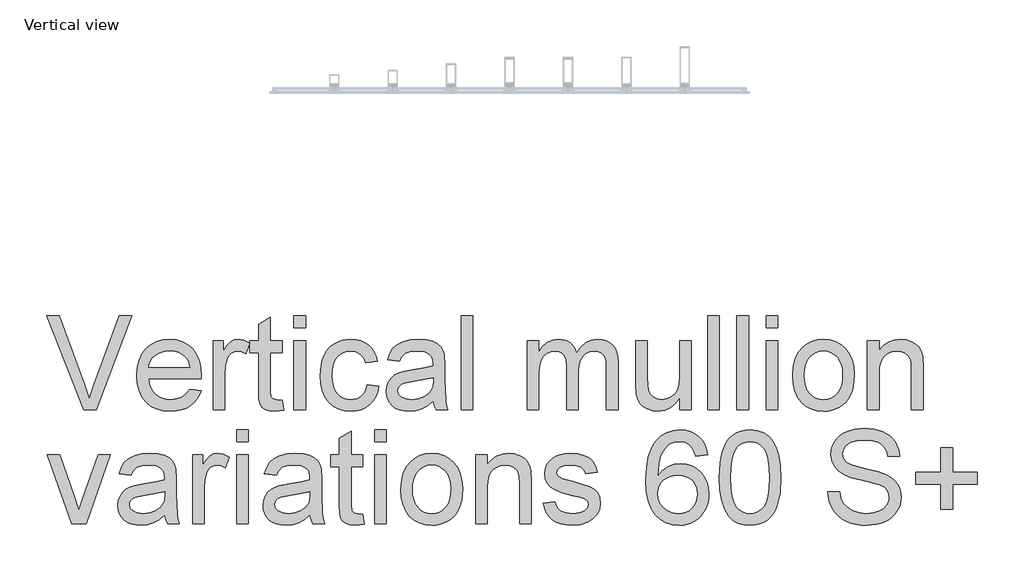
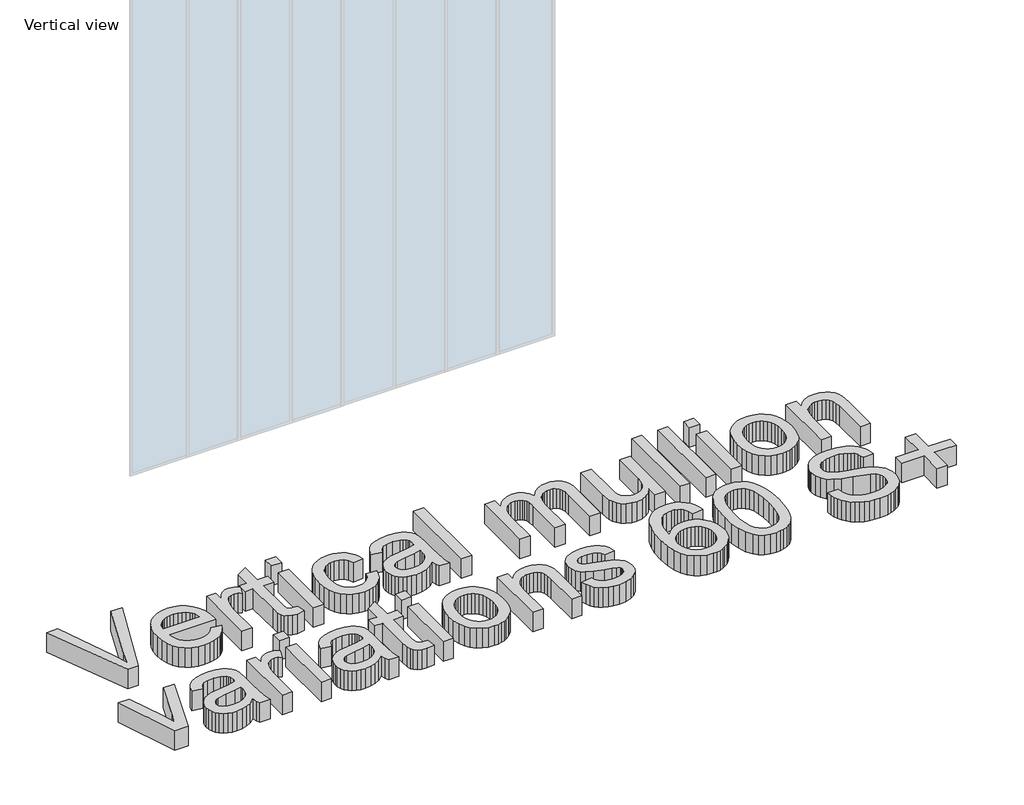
# One storey, part 7 of 8: 1 proxy.
"""IFC4 building model written with IfcOpenShell, lengths in millimetres."""

from ifc_helpers import new_model, si_unit, origin, origin_with_axes, place, context, project, spatial, polyline, outline, extrude, element, save

model = new_model("IFC4")

# Units and contexts
model_context = context("Model", 3, world=origin())
ifc_project = project(units=[si_unit("LENGTHUNIT", "METRE", prefix="MILLI")], contexts=[model_context])

# Site, building, storey
site = spatial("IfcSite", under=ifc_project)
building = spatial("IfcBuilding", under=site)
storey = spatial("IfcBuildingStorey", under=building, Name="Vertical view", Elevation=0.0)

# Proxy
placement = place(None, origin())
element("IfcBuildingElementProxy", 1, Name="600mm Arial", ObjectType="600mm Arial", at=placement, inside=storey, context=model_context, shape_type="SweptSolid", body=[
    extrude(outline(polyline([(25771.5572024, -6028.2897002), (25531.6981415, -5425.5518393), (25612.3378749, -5425.5518393), (25772.8815776, -5859.7997465), (25805.402346, -5957.6563572), (25837.4816559, -5859.7997465), (25998.466817, -5425.5518393), (26079.1065504, -5425.5518393), (25849.4010326, -6028.2897002), (25771.5572024, -6028.2897002)])), origin_with_axes(), (0.0, 0.0, 1.0), 150.0),
    extrude(outline(polyline([(26449.6372959, -5896.4407932), (26523.5080005, -5905.8585722), (26512.1818336, -5935.4454817), (26496.8917382, -5961.5191181), (26477.6377143, -5984.0794815), (26454.4197618, -6003.1265718), (26427.4770042, -6018.2557188), (26397.0485647, -6029.0622524), (26363.1344433, -6035.5461726), (26325.7346399, -6037.7074793), (26278.9860354, -6033.9780756), (26237.3325965, -6022.7898644), (26200.7743232, -6004.1428458), (26169.3112156, -5978.0370197), (26144.0101314, -5945.1989531), (26125.9379284, -5906.3552129), (26115.0946065, -5861.5057992), (26111.4801659, -5810.6507119), (26115.1313947, -5758.0711777), (26126.0850812, -5711.7272434), (26144.3412252, -5671.6189089), (26169.8998268, -5637.7461742), (26201.280161, -5610.8356062), (26237.0015027, -5591.613772), (26277.063852, -5580.0806714), (26321.4672088, -5576.2363046), (26364.4404244, -5580.0714744), (26403.3025586, -5591.5769838), (26438.0536116, -5610.7528328), (26468.6935833, -5637.5990214), (26493.7049604, -5671.3981797), (26511.5702298, -5711.4329378), (26522.2893914, -5757.7032957), (26525.8624453, -5810.2092535), (26525.4209869, -5830.5163396), (26186.8223986, -5830.5163396), (26191.1863987, -5860.5814957), (26199.8638153, -5886.9126495), (26212.8546482, -5909.509801), (26230.1588976, -5928.3729504), (26250.8200701, -5943.24458), (26273.8816727, -5953.8671726), (26299.3437053, -5960.2407282), (26327.2061679, -5962.3652467), (26367.3053054, -5958.4289094), (26401.0768725, -5946.6198973), (26428.5208694, -5926.2024466), (26449.6372959, -5896.4407932)]), holes=[polyline([(26186.8223986, -5755.174107), (26450.5202127, -5755.174107), (26440.3298814, -5715.3692751), (26431.5650929, -5699.7158963), (26420.3538891, -5686.8952087), (26399.8076797, -5671.4441649), (26376.4287789, -5660.4077051), (26350.2171867, -5653.7858292), (26321.1729032, -5651.5785372), (26294.680801, -5653.3397722), (26270.3867938, -5658.6234774), (26248.2908814, -5667.4296526), (26228.393064, -5679.758298), (26211.69582, -5695.0391964), (26199.2016277, -5712.7021307), (26190.9104872, -5732.7471009), (26186.8223986, -5755.174107)])]), origin_with_axes(), (0.0, 0.0, 1.0), 150.0),
    extrude(outline(polyline([(26601.2046779, -6028.2897002), (26601.2046779, -5585.6540836), (26667.1291315, -5585.6540836), (26667.1291315, -5651.1370788), (26691.4829195, -5613.1716569), (26713.9237212, -5590.8044316), (26736.4380994, -5579.8783363), (26761.0126166, -5576.2363046), (26798.5365801, -5582.0488401), (26836.6491548, -5599.4864467), (26811.4860264, -5667.029581), (26784.9985227, -5655.4412981), (26758.5110191, -5651.5785372), (26736.0150351, -5655.2941453), (26715.910284, -5666.4409698), (26699.6682939, -5684.172882), (26688.7605928, -5707.6437532), (26679.6003311, -5749.7294535), (26676.5469105, -5795.6411265), (26676.5469105, -6028.2897002), (26601.2046779, -6028.2897002)])), origin_with_axes(), (0.0, 0.0, 1.0), 150.0),
    extrude(outline(polyline([(27043.8402945, -5965.4554555), (27053.2580736, -6030.4969922), (26996.8985519, -6037.7074793), (26960.7357518, -6034.5804824), (26933.7700016, -6025.1994915), (26914.7137142, -6010.7417291), (26902.2793028, -5992.3844175), (26895.4366977, -5960.8569305), (26893.1558293, -5906.8886418), (26893.1558293, -5660.9963163), (26836.6491548, -5660.9963163), (26836.6491548, -5585.6540836), (26893.1558293, -5585.6540836), (26893.1558293, -5478.0853883), (26968.4980619, -5433.792396), (26968.4980619, -5585.6540836), (27043.8402945, -5585.6540836), (27043.8402945, -5660.9963163), (26968.4980619, -5660.9963163), (26968.4980619, -5904.6813499), (26972.4711875, -5943.5296886), (26985.3470573, -5957.2884752), (26996.2179702, -5961.0960538), (27011.0252206, -5962.3652467), (27043.8402945, -5965.4554555)])), origin_with_axes(), (0.0, 0.0, 1.0), 150.0),
    extrude(outline(polyline([(27119.1825271, -6028.2897002), (27119.1825271, -5585.6540836), (27194.5247597, -5585.6540836), (27194.5247597, -6028.2897002), (27119.1825271, -6028.2897002)])), origin_with_axes(), (0.0, 0.0, 1.0), 150.0),
    extrude(outline(polyline([(27119.1825271, -5500.894072), (27119.1825271, -5425.5518393), (27194.5247597, -5425.5518393), (27194.5247597, -5500.894072), (27119.1825271, -5500.894072)])), origin_with_axes(), (0.0, 0.0, 1.0), 150.0),
    extrude(outline(polyline([(27590.071481, -5868.1874559), (27665.4137136, -5877.605235), (27657.2191421, -5913.1564313), (27644.4076516, -5944.6149404), (27626.9792421, -5971.9807624), (27604.9339136, -5995.2538971), (27579.200568, -6013.8273393), (27550.7081075, -6027.0940838), (27519.456532, -6035.0541304), (27485.4458415, -6037.7074793), (27443.1899959, -6034.0056667), (27405.3027489, -6022.900229), (27371.7841006, -6004.3911661), (27342.634051, -5978.4784781), (27319.0390195, -5945.6496086), (27302.1854256, -5906.3920011), (27292.0732693, -5860.7056559), (27288.7025505, -5808.5905727), (27294.4599037, -5741.5440791), (27301.6565953, -5711.373157), (27311.7319634, -5683.437118), (27324.754986, -5658.2969821), (27340.794641, -5636.5137695), (27359.8509284, -5618.08748), (27381.9238481, -5603.0181138), (27406.0155202, -5591.3010723), (27431.1280649, -5582.9317569), (27457.2614822, -5577.9101676), (27484.4157719, -5576.2363046), (27517.8424497, -5578.535567), (27548.0777512, -5585.4333544), (27575.1216764, -5596.9296668), (27598.9742252, -5613.0245041), (27619.2307276, -5633.3499843), (27635.4865133, -5657.5382255), (27647.7415822, -5685.5892276), (27655.9959345, -5717.5029907), (27580.6537019, -5726.9207698), (27566.9868858, -5694.0505135), (27545.7049123, -5670.4876717), (27517.985004, -5656.3058208), (27485.0043831, -5651.5785372), (27459.4043948, -5653.9053908), (27436.3152011, -5660.8859517), (27415.736802, -5672.5202198), (27397.6691975, -5688.8081951), (27382.9585162, -5710.1269567), (27372.4508867, -5736.8535837), (27366.146309, -5768.9880759), (27364.0447831, -5806.5304335), (27366.1003238, -5844.6384097), (27372.2669457, -5877.1453825), (27382.544649, -5904.0513519), (27396.9334335, -5925.356318), (27414.642353, -5941.5477243), (27434.8804613, -5953.1130145), (27457.6477583, -5960.0521887), (27482.944244, -5962.3652467), (27521.9581296, -5956.5894994), (27538.8301176, -5949.3698152), (27553.945469, -5939.2622574), (27566.8811197, -5926.1564613), (27577.2140052, -5909.9420624), (27584.9441257, -5890.6190606), (27590.071481, -5868.1874559)])), origin_with_axes(), (0.0, 0.0, 1.0), 150.0),
    extrude(outline(polyline([(28013.8715394, -5971.7830258), (27977.8742862, -6002.6483252), (27940.8101752, -6022.8450467), (27901.8330778, -6033.9918712), (27860.0968654, -6037.7074793), (27826.550626, -6035.4725962), (27797.1338619, -6028.7679468), (27771.8465733, -6017.5935312), (27750.6887601, -6001.9493494), (27733.9823189, -5982.8286827), (27722.0491467, -5961.2248125), (27714.8892434, -5937.1377389), (27712.502609, -5910.5674618), (27716.1078525, -5879.3342804), (27726.9235832, -5850.9705786), (27743.6070316, -5826.6903669), (27764.8154287, -5807.7076559), (27789.7394338, -5793.3602581), (27817.5697068, -5782.9859859), (27882.7583963, -5771.6552204), (27959.7928861, -5759.7358438), (28013.430081, -5745.7563279), (28013.8715394, -5728.980909), (28008.6844033, -5695.3564946), (28002.2004831, -5682.9036891), (27993.1229949, -5673.3571513), (27977.4328278, -5663.8290076), (27958.3213581, -5657.0231907), (27909.8345112, -5651.5785372), (27864.9529078, -5655.2021748), (27833.6093618, -5666.0730878), (27812.2354178, -5686.1778388), (27797.2626206, -5717.5029907), (27721.920388, -5708.0852116), (27734.998593, -5666.8824282), (27754.5147328, -5634.5088126), (27782.2898234, -5609.7503543), (27820.1448807, -5591.3930428), (27866.4428298, -5580.0254891), (27919.5465958, -5576.2363046), (27970.4798581, -5579.5840307), (28010.854907, -5589.6272092), (28041.2971421, -5604.7287651), (28062.4319628, -5623.2516236), (28076.4482668, -5646.1522778), (28085.5349521, -5674.3872209), (28089.213772, -5740.3116744), (28089.213772, -5834.0480068), (28093.0397448, -5964.9404207), (28098.7051275, -5997.2956421), (28108.0493302, -6028.2897002), (28032.7070976, -6028.2897002), (28020.6405681, -6002.0965022), (28013.8715394, -5971.7830258)]), holes=[polyline([(28013.8715394, -5821.0985606), (27963.2509769, -5833.6433366), (27892.3233282, -5844.2015499), (27827.5025206, -5856.4152321), (27810.6351312, -5864.7661534), (27798.1455374, -5876.2808598), (27790.4200155, -5890.0764347), (27787.8448416, -5905.2699611), (27793.455042, -5927.6739746), (27810.2856433, -5946.0312861), (27837.9687634, -5958.2817566), (27876.1365204, -5962.3652467), (27916.6035399, -5957.8586923), (27952.3616698, -5944.3390289), (27981.350771, -5924.4182189), (28001.5107044, -5900.7082243), (28010.4502368, -5876.2808598), (28013.430081, -5842.4357163), (28013.8715394, -5821.0985606)])]), origin_with_axes(), (0.0, 0.0, 1.0), 150.0),
    extrude(outline(polyline([(28192.8093419, -6028.2897002), (28192.8093419, -5425.5518393), (28268.1515745, -5425.5518393), (28268.1515745, -6028.2897002), (28192.8093419, -6028.2897002)])), origin_with_axes(), (0.0, 0.0, 1.0), 150.0),
    extrude(outline(polyline([(28616.6094003, -6028.2897002), (28616.6094003, -5585.6540836), (28691.9516329, -5585.6540836), (28691.9516329, -5658.4947187), (28714.6131638, -5625.0358512), (28743.7494178, -5598.8242591), (28778.3671136, -5581.8832932), (28817.4729697, -5576.2363046), (28859.3747289, -5581.9936578), (28877.2078086, -5589.1903493), (28892.9623551, -5599.2657175), (28918.0519071, -5626.9120494), (28934.4594441, -5663.7922194), (28961.9218351, -5625.4865067), (28993.246987, -5598.1252833), (29028.4348998, -5581.7085492), (29067.4855736, -5576.2363046), (29097.6472987, -5578.5125744), (29124.1210067, -5585.3413839), (29146.9066978, -5596.7227332), (29166.0043719, -5612.6566221), (29181.1013293, -5633.3269917), (29191.8848703, -5658.917783), (29198.3549948, -5689.428996), (29200.511703, -5724.8606306), (29200.511703, -6028.2897002), (29125.1694704, -6028.2897002), (29125.1694704, -5757.2342462), (29123.422031, -5719.6551004), (29118.1797125, -5694.326425), (29108.3572633, -5676.9807889), (29092.8694313, -5663.350761), (29072.9486212, -5654.5215931), (29049.8272378, -5651.5785372), (29028.4762865, -5653.4639324), (29009.0107305, -5659.1201181), (28991.4305696, -5668.5470942), (28975.735804, -5681.7448608), (28962.8277445, -5699.0996939), (28953.607702, -5720.9978697), (28948.0756765, -5747.4393881), (28946.231668, -5778.4242491), (28946.231668, -6028.2897002), (28870.8894354, -6028.2897002), (28870.8894354, -5748.8465367), (28866.5300337, -5706.2458017), (28861.0807817, -5689.525565), (28853.4518288, -5675.8587489), (28843.3396725, -5665.2361563), (28830.44081, -5657.6485901), (28814.7552414, -5653.0960504), (28796.2829667, -5651.5785372), (28767.2570773, -5655.6252391), (28740.5120563, -5667.765345), (28718.4391366, -5687.7045491), (28703.4295512, -5715.1485459), (28694.8211125, -5753.2243324), (28691.9516329, -5805.0589056), (28691.9516329, -6028.2897002), (28616.6094003, -6028.2897002)])), origin_with_axes(), (0.0, 0.0, 1.0), 150.0),
    extrude(outline(polyline([(29596.0584243, -6028.2897002), (29596.0584243, -5952.2117036), (29568.7983684, -5989.6161055), (29537.0501522, -6016.3335354), (29500.8137757, -6032.3639933), (29460.0892388, -6037.7074793), (29423.3930098, -6033.955083), (29389.2351666, -6022.6978939), (29360.5771591, -6005.7753221), (29340.3804376, -5985.0267776), (29326.7871979, -5959.8268609), (29317.9396359, -5929.5501727), (29313.525052, -5859.5054409), (29313.525052, -5585.6540836), (29388.8672846, -5585.6540836), (29388.8672846, -5824.0416165), (29390.0077188, -5871.7191231), (29393.4290213, -5900.8553771), (29404.4102989, -5926.4783581), (29423.2274629, -5945.9577097), (29448.6297147, -5958.2633625), (29479.3662554, -5962.3652467), (29511.8686297, -5958.171392), (29542.2740766, -5945.5898277), (29567.3452345, -5925.7793823), (29583.844742, -5899.8988839), (29593.0050037, -5864.4534537), (29596.0584243, -5815.9482126), (29596.0584243, -5585.6540836), (29671.4006569, -5585.6540836), (29671.4006569, -6028.2897002), (29596.0584243, -6028.2897002)])), origin_with_axes(), (0.0, 0.0, 1.0), 150.0),
    extrude(outline(polyline([(29774.9962267, -6028.2897002), (29774.9962267, -5425.5518393), (29850.3384593, -5425.5518393), (29850.3384593, -6028.2897002), (29774.9962267, -6028.2897002)])), origin_with_axes(), (0.0, 0.0, 1.0), 150.0),
    extrude(outline(polyline([(29963.3518082, -6028.2897002), (29963.3518082, -5425.5518393), (30038.6940409, -5425.5518393), (30038.6940409, -6028.2897002), (29963.3518082, -6028.2897002)])), origin_with_axes(), (0.0, 0.0, 1.0), 150.0),
    extrude(outline(polyline([(30151.7073898, -6028.2897002), (30151.7073898, -5585.6540836), (30227.0496224, -5585.6540836), (30227.0496224, -6028.2897002), (30151.7073898, -6028.2897002)])), origin_with_axes(), (0.0, 0.0, 1.0), 150.0),
    extrude(outline(polyline([(30151.7073898, -5500.894072), (30151.7073898, -5425.5518393), (30227.0496224, -5425.5518393), (30227.0496224, -5500.894072), (30151.7073898, -5500.894072)])), origin_with_axes(), (0.0, 0.0, 1.0), 150.0),
    extrude(outline(polyline([(30321.2274132, -5806.9718919), (30325.3017062, -5749.64668), (30337.5245855, -5700.2493251), (30357.896051, -5658.7798272), (30386.4161027, -5625.2381863), (30415.1292924, -5603.7998631), (30446.8223263, -5588.486775), (30481.4952044, -5579.2989222), (30519.1479266, -5576.2363046), (30560.7139935, -5579.9657083), (30598.2977378, -5591.1539195), (30631.8991596, -5609.8009381), (30661.5182587, -5635.9067642), (30685.6927043, -5668.5884809), (30702.9601654, -5706.9631716), (30713.3206421, -5751.0308361), (30716.7741344, -5800.7914744), (30715.2474241, -5841.1205381), (30710.6672932, -5876.9062592), (30703.0337418, -5908.1486377), (30692.3467699, -5934.8476735), (30678.7397346, -5957.909276), (30662.3459932, -5978.2393548), (30643.1655457, -5995.8379097), (30621.198392, -6010.7049409), (30597.2998579, -6022.5185514), (30572.325269, -6030.9568447), (30546.2746252, -6036.0198207), (30519.1479266, -6037.7074793), (30476.9748543, -6033.9918712), (30439.0416221, -6022.8450467), (30405.3482299, -6004.267006), (30375.8946776, -5978.2577489), (30351.9777494, -5945.2587339), (30334.8942293, -5905.7114194), (30324.6441172, -5859.6158055), (30321.2274132, -5806.9718919)]), holes=[polyline([(30396.5696458, -5806.8247391), (30398.7493466, -5843.3692168), (30405.2884491, -5875.011667), (30416.1869532, -5901.7520895), (30431.4448589, -5923.5904844), (30450.0045056, -5940.5544429), (30470.8082324, -5952.6715561), (30493.8560394, -5959.9418241), (30519.1479266, -5962.3652467), (30544.311055, -5959.9280285), (30567.2668915, -5952.6163738), (30588.0154361, -5940.4302827), (30606.5566886, -5923.3697552), (30621.8145944, -5901.3152296), (30632.7130985, -5874.1471443), (30639.2522009, -5841.8654992), (30641.4319018, -5804.4702944), (30639.2384054, -5769.084645), (30632.6579162, -5738.2699293), (30621.6904342, -5712.0261475), (30606.3359594, -5690.3532995), (30587.725729, -5673.389341), (30566.99098, -5661.2722278), (30544.1317126, -5654.0019598), (30519.1479266, -5651.5785372), (30493.8560394, -5653.9927628), (30470.8082324, -5661.2354396), (30450.0045056, -5673.3065675), (30431.4448589, -5690.2061467), (30416.1869532, -5711.9801623), (30405.2884491, -5738.6745995), (30398.7493466, -5770.2894585), (30396.5696458, -5806.8247391)])]), origin_with_axes(), (0.0, 0.0, 1.0), 150.0),
    extrude(outline(polyline([(30801.5341461, -6028.2897002), (30801.5341461, -5585.6540836), (30876.8763787, -5585.6540836), (30876.8763787, -5647.4582588), (30903.0511826, -5616.2986538), (30934.4866991, -5594.0417931), (30971.1829281, -5580.6876767), (31013.1398697, -5576.2363046), (31050.2775571, -5579.823154), (31084.2882475, -5590.5837024), (31112.6519494, -5607.1751804), (31132.8486709, -5628.2548187), (31146.5522752, -5653.7674351), (31155.4366254, -5683.6578472), (31159.409751, -5756.4984822), (31159.409751, -6028.2897002), (31084.0675184, -6028.2897002), (31084.0675184, -5766.6520253), (31081.8970146, -5727.693322), (31075.3855033, -5699.9918077), (31063.3741561, -5680.1445741), (31044.7041449, -5664.7487126), (31020.7734211, -5654.871081), (30992.9799363, -5651.5785372), (30970.1022748, -5653.4271442), (30948.852491, -5658.9729653), (30929.2305851, -5668.2160004), (30911.236557, -5681.1562496), (30896.203979, -5699.2652408), (30885.4664233, -5724.014502), (30879.0238898, -5755.4040333), (30876.8763787, -5793.4338345), (30876.8763787, -6028.2897002), (30801.5341461, -6028.2897002)])), origin_with_axes(), (0.0, 0.0, 1.0), 150.0),
    extrude(outline(polyline([(25692.6833026, -6760.1386073), (25536.9956423, -6317.5029907), (25616.7524588, -6317.5029907), (25711.0774024, -6582.6723328), (25739.4778924, -6671.8469285), (25767.2897713, -6587.675528), (25862.203326, -6317.5029907), (25941.9601426, -6317.5029907), (25788.1854686, -6760.1386073), (25692.6833026, -6760.1386073)])), origin_with_axes(), (0.0, 0.0, 1.0), 150.0),
    extrude(outline(polyline([(26290.4179684, -6703.6319329), (26254.4207152, -6734.4972322), (26217.3566042, -6754.6939538), (26178.3795068, -6765.8407782), (26136.6432944, -6769.5563864), (26103.097055, -6767.3215033), (26073.6802909, -6760.6168539), (26048.3930023, -6749.4424383), (26027.235189, -6733.7982565), (26010.5287479, -6714.6775898), (25998.5955757, -6693.0737196), (25991.4356724, -6668.986646), (25989.049038, -6642.4163689), (25992.6542815, -6611.1831875), (26003.4700122, -6582.8194856), (26020.1534606, -6558.539274), (26041.3618577, -6539.556563), (26066.2858628, -6525.2091652), (26094.1161358, -6514.8348929), (26159.3048253, -6503.5041275), (26236.3393151, -6491.5847508), (26289.97651, -6477.605235), (26290.4179684, -6460.829816), (26285.2308323, -6427.2054017), (26278.7469121, -6414.7525961), (26269.6694239, -6405.2060584), (26253.9792568, -6395.6779147), (26234.8677871, -6388.8720978), (26186.3809402, -6383.4274443), (26141.4993368, -6387.0510819), (26110.1557908, -6397.9219949), (26088.7818468, -6418.0267459), (26073.8090496, -6449.3518978), (25998.466817, -6439.9341187), (26011.545022, -6398.7313353), (26031.0611618, -6366.3577197), (26058.8362524, -6341.5992614), (26096.6913097, -6323.2419498), (26142.9892588, -6311.8743962), (26196.0930248, -6308.0852116), (26247.0262871, -6311.4329378), (26287.401336, -6321.4761163), (26317.8435711, -6336.5776722), (26338.9783918, -6355.1005306), (26352.9946958, -6378.0011848), (26362.0813811, -6406.236128), (26365.760201, -6472.1605815), (26365.760201, -6565.8969139), (26369.5861738, -6696.7893277), (26375.2515565, -6729.1445492), (26384.5957592, -6760.1386073), (26309.2535266, -6760.1386073), (26297.1869971, -6733.9454093), (26290.4179684, -6703.6319329)]), holes=[polyline([(26290.4179684, -6552.9474676), (26239.7974059, -6565.4922437), (26168.8697572, -6576.0504569), (26104.0489496, -6588.2641392), (26087.1815602, -6596.6150605), (26074.6919664, -6608.1297669), (26066.9664445, -6621.9253417), (26064.3912706, -6637.1188681), (26070.001471, -6659.5228816), (26086.8320723, -6677.8801932), (26114.5151924, -6690.1306636), (26152.6829494, -6694.2141538), (26193.1499689, -6689.7075993), (26228.9080988, -6676.187936), (26257.8972, -6656.267126), (26278.0571334, -6632.5571314), (26286.9966658, -6608.1297669), (26289.97651, -6574.2846234), (26290.4179684, -6552.9474676)])]), origin_with_axes(), (0.0, 0.0, 1.0), 150.0),
    extrude(outline(polyline([(26469.3557709, -6760.1386073), (26469.3557709, -6317.5029907), (26535.2802244, -6317.5029907), (26535.2802244, -6382.9859859), (26559.6340125, -6345.020564), (26582.0748142, -6322.6533386), (26604.5891923, -6311.7272434), (26629.1637096, -6308.0852116), (26666.6876731, -6313.8977472), (26704.8002478, -6331.3353537), (26679.6371193, -6398.8784881), (26653.1496156, -6387.2902052), (26626.662112, -6383.4274443), (26604.166128, -6387.1430524), (26584.0613769, -6398.2898769), (26567.8193869, -6416.021789), (26556.9116857, -6439.4926603), (26547.751424, -6481.5783606), (26544.6980035, -6527.4900336), (26544.6980035, -6760.1386073), (26469.3557709, -6760.1386073)])), origin_with_axes(), (0.0, 0.0, 1.0), 150.0),
    extrude(outline(polyline([(26751.8891431, -6760.1386073), (26751.8891431, -6317.5029907), (26827.2313758, -6317.5029907), (26827.2313758, -6760.1386073), (26751.8891431, -6760.1386073)])), origin_with_axes(), (0.0, 0.0, 1.0), 150.0),
    extrude(outline(polyline([(26751.8891431, -6232.742979), (26751.8891431, -6157.4007464), (26827.2313758, -6157.4007464), (26827.2313758, -6232.742979), (26751.8891431, -6232.742979)])), origin_with_axes(), (0.0, 0.0, 1.0), 150.0),
    extrude(outline(polyline([(27222.778097, -6703.6319329), (27186.7808437, -6734.4972322), (27149.7167327, -6754.6939538), (27110.7396353, -6765.8407782), (27069.003423, -6769.5563864), (27035.4571836, -6767.3215033), (27006.0404195, -6760.6168539), (26980.7531309, -6749.4424383), (26959.5953176, -6733.7982565), (26942.8888765, -6714.6775898), (26930.9557043, -6693.0737196), (26923.795801, -6668.986646), (26921.4091665, -6642.4163689), (26925.0144101, -6611.1831875), (26935.8301407, -6582.8194856), (26952.5135892, -6558.539274), (26973.7219862, -6539.556563), (26998.6459914, -6525.2091652), (27026.4762643, -6514.8348929), (27091.6649539, -6503.5041275), (27168.6994437, -6491.5847508), (27222.3366386, -6477.605235), (27222.778097, -6460.829816), (27217.5909608, -6427.2054017), (27211.1070407, -6414.7525961), (27202.0295524, -6405.2060584), (27186.3393854, -6395.6779147), (27167.2279157, -6388.8720978), (27118.7410687, -6383.4274443), (27073.8594653, -6387.0510819), (27042.5159193, -6397.9219949), (27021.1419754, -6418.0267459), (27006.1691782, -6449.3518978), (26930.8269456, -6439.9341187), (26943.9051505, -6398.7313353), (26963.4212904, -6366.3577197), (26991.196381, -6341.5992614), (27029.0514383, -6323.2419498), (27075.3493874, -6311.8743962), (27128.4531534, -6308.0852116), (27179.3864156, -6311.4329378), (27219.7614646, -6321.4761163), (27250.2036997, -6336.5776722), (27271.3385203, -6355.1005306), (27285.3548244, -6378.0011848), (27294.4415096, -6406.236128), (27298.1203296, -6472.1605815), (27298.1203296, -6565.8969139), (27301.9463023, -6696.7893277), (27307.6116851, -6729.1445492), (27316.9558877, -6760.1386073), (27241.6136551, -6760.1386073), (27229.5471257, -6733.9454093), (27222.778097, -6703.6319329)]), holes=[polyline([(27222.778097, -6552.9474676), (27172.1575344, -6565.4922437), (27101.2298858, -6576.0504569), (27036.4090782, -6588.2641392), (27019.5416887, -6596.6150605), (27007.052095, -6608.1297669), (26999.3265731, -6621.9253417), (26996.7513991, -6637.1188681), (27002.3615996, -6659.5228816), (27019.1922008, -6677.8801932), (27046.875321, -6690.1306636), (27085.043078, -6694.2141538), (27125.5100975, -6689.7075993), (27161.2682274, -6676.187936), (27190.2573286, -6656.267126), (27210.4172619, -6632.5571314), (27219.3567944, -6608.1297669), (27222.3366386, -6574.2846234), (27222.778097, -6552.9474676)])]), origin_with_axes(), (0.0, 0.0, 1.0), 150.0),
    extrude(outline(polyline([(27561.8181437, -6697.3043625), (27571.2359228, -6762.3458993), (27514.8764011, -6769.5563864), (27478.713601, -6766.4293894), (27451.7478508, -6757.0483986), (27432.6915634, -6742.5906361), (27420.257152, -6724.2333246), (27413.4145469, -6692.7058376), (27411.1336785, -6638.7375489), (27411.1336785, -6392.8452233), (27354.627004, -6392.8452233), (27354.627004, -6317.5029907), (27411.1336785, -6317.5029907), (27411.1336785, -6209.9342953), (27486.4759111, -6165.6413031), (27486.4759111, -6317.5029907), (27561.8181437, -6317.5029907), (27561.8181437, -6392.8452233), (27486.4759111, -6392.8452233), (27486.4759111, -6636.5302569), (27490.4490367, -6675.3785956), (27503.3249065, -6689.1373822), (27514.1958195, -6692.9449609), (27529.0030698, -6694.2141538), (27561.8181437, -6697.3043625)])), origin_with_axes(), (0.0, 0.0, 1.0), 150.0),
    extrude(outline(polyline([(27637.1603763, -6760.1386073), (27637.1603763, -6317.5029907), (27712.502609, -6317.5029907), (27712.502609, -6760.1386073), (27637.1603763, -6760.1386073)])), origin_with_axes(), (0.0, 0.0, 1.0), 150.0),
    extrude(outline(polyline([(27637.1603763, -6232.742979), (27637.1603763, -6157.4007464), (27712.502609, -6157.4007464), (27712.502609, -6232.742979), (27637.1603763, -6232.742979)])), origin_with_axes(), (0.0, 0.0, 1.0), 150.0),
    extrude(outline(polyline([(27806.6803997, -6538.820799), (27810.7546928, -6481.4955871), (27822.9775721, -6432.0982322), (27843.3490376, -6390.6287343), (27871.8690893, -6357.0870934), (27900.582279, -6335.6487701), (27932.2753129, -6320.3356821), (27966.9481909, -6311.1478293), (28004.6009131, -6308.0852116), (28046.1669801, -6311.8146154), (28083.7507244, -6323.0028265), (28117.3521461, -6341.6498452), (28146.9712453, -6367.7556713), (28171.1456909, -6400.437388), (28188.413152, -6438.8120786), (28198.7736287, -6482.8797431), (28202.2271209, -6532.6403815), (28200.7004107, -6572.9694452), (28196.1202798, -6608.7551663), (28188.4867284, -6639.9975447), (28177.7997565, -6666.6965805), (28164.1927212, -6689.7581831), (28147.7989797, -6710.0882619), (28128.6185322, -6727.6868168), (28106.6513786, -6742.5538479), (28082.7528445, -6754.3674585), (28057.7782555, -6762.8057518), (28031.7276117, -6767.8687277), (28004.6009131, -6769.5563864), (27962.4278409, -6765.8407782), (27924.4946087, -6754.6939538), (27890.8012164, -6736.115913), (27861.3476642, -6710.106656), (27837.430736, -6677.107641), (27820.3472158, -6637.5603265), (27810.0971037, -6591.4647125), (27806.6803997, -6538.820799)]), holes=[polyline([(27882.0226323, -6538.6736462), (27884.2023332, -6575.2181239), (27890.7414356, -6606.860574), (27901.6399397, -6633.6009965), (27916.8978455, -6655.4393915), (27935.4574921, -6672.40335), (27956.261219, -6684.5204632), (27979.309026, -6691.7907311), (28004.6009131, -6694.2141538), (28029.7640416, -6691.7769356), (28052.7198781, -6684.4652809), (28073.4684226, -6672.2791898), (28092.0096752, -6655.2186623), (28107.2675809, -6633.1641367), (28118.166085, -6605.9960513), (28124.7051875, -6573.7144063), (28126.8848883, -6536.3192014), (28124.6913919, -6500.933552), (28118.1109027, -6470.1188364), (28107.1434208, -6443.8750546), (28091.788946, -6422.2022065), (28073.1787156, -6405.238248), (28052.4439666, -6393.1211348), (28029.5846991, -6385.8508669), (28004.6009131, -6383.4274443), (27979.309026, -6385.8416698), (27956.261219, -6393.0843466), (27935.4574921, -6405.1554746), (27916.8978455, -6422.0550537), (27901.6399397, -6443.8290693), (27890.7414356, -6470.5235066), (27884.2023332, -6502.1383656), (27882.0226323, -6538.6736462)])]), origin_with_axes(), (0.0, 0.0, 1.0), 150.0),
    extrude(outline(polyline([(28286.9871326, -6760.1386073), (28286.9871326, -6317.5029907), (28362.3293652, -6317.5029907), (28362.3293652, -6379.3071659), (28388.5041692, -6348.1475609), (28419.9396857, -6325.8907002), (28456.6359147, -6312.5365838), (28498.5928562, -6308.0852116), (28535.7305437, -6311.6720611), (28569.7412341, -6322.4326095), (28598.1049359, -6339.0240874), (28618.3016575, -6360.1037258), (28632.0052618, -6385.6163421), (28640.889612, -6415.5067542), (28644.8627375, -6488.3473893), (28644.8627375, -6760.1386073), (28569.5205049, -6760.1386073), (28569.5205049, -6498.5009323), (28567.3500011, -6459.5422291), (28560.8384898, -6431.8407148), (28548.8271427, -6411.9934812), (28530.1571314, -6396.5976197), (28506.2264076, -6386.7199881), (28478.4329229, -6383.4274443), (28455.5552613, -6385.2760513), (28434.3054776, -6390.8218724), (28414.6835717, -6400.0649075), (28396.6895436, -6413.0051567), (28381.6569656, -6431.1141479), (28370.9194098, -6455.8634091), (28364.4768764, -6487.2529403), (28362.3293652, -6525.2827416), (28362.3293652, -6760.1386073), (28286.9871326, -6760.1386073)])), origin_with_axes(), (0.0, 0.0, 1.0), 150.0),
    extrude(outline(polyline([(28720.2049701, -6628.2897002), (28795.5472028, -6618.8719212), (28800.0997424, -6636.0520103), (28807.4297912, -6651.0983839), (28817.537349, -6664.011042), (28830.4224159, -6674.7899844), (28846.12178, -6683.2880585), (28864.6722296, -6689.3581114), (28910.3263853, -6694.2141538), (28955.4287179, -6689.7627816), (28972.9582949, -6684.1985665), (28987.1401458, -6676.4086652), (29005.9021276, -6657.0580723), (29010.592623, -6646.2239475), (29012.1561215, -6634.6172706), (29010.583426, -6624.4453334), (29005.8653394, -6615.4138304), (28986.992993, -6600.772127), (28958.776444, -6591.2071951), (28909.4434685, -6579.2878185), (28840.6863236, -6559.4037966), (28795.9886611, -6542.4260426), (28767.2754714, -6523.9031841), (28746.4717446, -6499.3838491), (28733.8349981, -6470.4315361), (28729.6227492, -6438.6097435), (28733.0072636, -6409.4183072), (28743.1608066, -6382.4709511), (28759.1636734, -6358.8345329), (28780.096159, -6339.5759104), (28800.8998858, -6327.4541987), (28827.9943947, -6317.2822615), (28859.3195466, -6310.3844741), (28892.8152023, -6308.0852116), (28941.8538722, -6311.7824257), (28984.4913955, -6322.8740678), (29018.7779974, -6340.2748862), (29042.7639035, -6362.8996289), (29058.6564057, -6392.422159), (29068.662796, -6430.5163396), (28993.3205634, -6439.9341187), (28983.8108138, -6416.2241241), (28964.9936497, -6398.3634533), (28936.6851302, -6387.1614465), (28898.7013142, -6383.4274443), (28855.4383916, -6386.9958996), (28826.5964431, -6397.7012657), (28810.3728472, -6413.1523095), (28804.9649818, -6430.957798), (28807.209062, -6442.5460809), (28813.9413025, -6452.8835649), (28825.456009, -6462.117403), (28842.0474869, -6469.5118311), (28906.9418709, -6485.5514861), (29017.5271986, -6521.0153104), (29046.7370291, -6537.9746704), (29068.8835252, -6561.1880243), (29082.8446469, -6590.7289485), (29087.4983541, -6626.6710195), (29082.0353065, -6663.827101), (29065.6461636, -6698.7758905), (29038.9563249, -6728.7766672), (29002.5911896, -6751.0887102), (28958.6660794, -6764.9394674), (28909.2963157, -6769.5563864), (28868.7465227, -6767.3307003), (28833.3286837, -6760.6536421), (28803.0427984, -6749.5252118), (28777.888867, -6733.9454093), (28757.3426576, -6713.987811), (28740.8799383, -6689.7259934), (28728.5007091, -6661.1599565), (28720.2049701, -6628.2897002)])), origin_with_axes(), (0.0, 0.0, 1.0), 150.0),
    extrude(outline(polyline([(29774.9962267, -6317.5029907), (29699.6539941, -6326.9207698), (29687.5138883, -6289.5807473), (29671.1063513, -6264.086525), (29654.9103464, -6250.3737236), (29636.9301139, -6240.5788655), (29617.1656537, -6234.7019507), (29595.6169659, -6232.742979), (29560.5945999, -6237.3047158), (29527.6323732, -6250.989926), (29499.3238536, -6279.8134803), (29476.2024702, -6319.4895535), (29467.1663687, -6344.7952362), (29460.5858795, -6375.6099519), (29454.7917381, -6453.7664817), (29485.013244, -6418.5049925), (29521.2312264, -6393.6545637), (29561.4223344, -6378.9208898), (29603.563217, -6374.0096652), (29639.7628053, -6377.3665884), (29673.1664904, -6387.437358), (29703.7742724, -6404.221974), (29731.5861513, -6427.7204365), (29754.6983376, -6456.5347937), (29771.2070422, -6489.2670943), (29781.1122649, -6525.917338), (29784.4140058, -6566.4855251), (29782.8597044, -6593.9525145), (29778.1968001, -6620.4354196), (29770.4252929, -6645.9342404), (29759.5451829, -6670.4489769), (29745.9427461, -6693.0645225), (29730.0042587, -6712.8657709), (29711.7297206, -6729.8527221), (29691.1191318, -6744.0253759), (29668.6139508, -6755.195193), (29644.6556358, -6763.1736338), (29619.244187, -6767.9606982), (29592.3796043, -6769.5563864), (29547.4658112, -6765.3257434), (29506.9022227, -6752.6338146), (29470.6888388, -6731.4805999), (29438.8256595, -6701.8660993), (29412.8485921, -6662.539514), (29394.293544, -6612.2500453), (29383.1605151, -6550.9976931), (29379.4495055, -6478.7824574), (29383.5697838, -6397.8208273), (29395.9306189, -6328.7233916), (29416.5320106, -6271.4901502), (29429.9229152, -6247.3226023), (29445.373959, -6226.1211031), (29476.6347316, -6196.0559471), (29512.8803052, -6174.5808356), (29554.1106798, -6161.6957687), (29600.3258554, -6157.4007464), (29635.0263246, -6160.0586938), (29666.4342499, -6168.0325361), (29694.5496314, -6181.3222732), (29719.372469, -6199.9279051), (29740.2313782, -6223.2240324), (29756.4549742, -6250.5852558), (29768.043257, -6282.0115752), (29774.9962267, -6317.5029907)]), holes=[polyline([(29454.7917381, -6565.3083027), (29459.1511398, -6598.6935937), (29472.2293447, -6630.5705686), (29492.5364308, -6657.9777773), (29518.5824761, -6677.9537696), (29550.0179926, -6690.1490577), (29586.4934924, -6694.2141538), (29612.6820919, -6692.1080294), (29636.212744, -6685.7896561), (29657.0854487, -6675.259034), (29675.300206, -6660.516163), (29690.0752667, -6642.1588515), (29700.6288814, -6620.7849075), (29706.9610502, -6596.3943313), (29709.0717732, -6568.9871226), (29706.9886414, -6542.6513703), (29700.739246, -6519.267871), (29690.323587, -6498.8366247), (29675.7416644, -6481.3576314), (29657.4717248, -6467.3551229), (29635.9920148, -6457.3533312), (29611.3025344, -6451.3522561), (29583.4032836, -6449.3518978), (29557.564172, -6451.3522561), (29533.7576084, -6457.3533312), (29511.9835928, -6467.3551229), (29492.2421252, -6481.3576314), (29475.8575809, -6498.6066984), (29464.1543349, -6518.348166), (29457.1323873, -6540.5820341), (29454.7917381, -6565.3083027)])]), origin_with_axes(), (0.0, 0.0, 1.0), 150.0),
    extrude(outline(polyline([(29850.3384593, -6463.6257192), (29855.8750834, -6367.148666), (29862.7958634, -6326.2355896), (29872.4849554, -6290.2061467), (29884.9009728, -6258.7660317), (29900.0025287, -6231.6209389), (29917.7896231, -6208.7708685), (29938.2622562, -6190.2158204), (29961.4894056, -6175.8592255), (29987.5400494, -6165.6045149), (30016.4141875, -6159.4516885), (30048.1118199, -6157.4007464), (30094.5385277, -6162.2567888), (30136.1091932, -6176.8249158), (30170.8740417, -6200.5349104), (30196.8832988, -6232.8165554), (30216.5281973, -6273.3939395), (30232.1999703, -6321.9911511), (30242.463878, -6383.7033557), (30245.8851805, -6463.6257192), (30240.4037388, -6559.5509494), (30233.5519367, -6600.3260701), (30223.9594136, -6636.3095277), (30211.6399653, -6667.7634383), (30196.6073873, -6694.9499178), (30178.8616795, -6717.8689661), (30158.4028421, -6736.5205832), (30135.1481015, -6750.9737471), (30109.0146842, -6761.2974356), (30080.0025904, -6767.4916487), (30048.1118199, -6769.5563864), (30006.6147309, -6765.9695369), (29969.8265314, -6755.2089886), (29937.7472214, -6737.2747413), (29910.3768009, -6712.1667951), (29884.1100265, -6666.779354), (29865.3480447, -6610.2266943), (29854.0908557, -6542.508816), (29850.3384593, -6463.6257192)]), holes=[polyline([(29925.6806919, -6463.4785664), (29927.8879839, -6528.9753571), (29934.5098598, -6581.9917511), (29945.5463197, -6622.5277485), (29960.9973635, -6650.5833492), (29979.6857688, -6669.6718262), (30000.4343134, -6683.3064526), (30023.2429971, -6691.4872285), (30048.1118199, -6694.2141538), (30072.9806428, -6691.4780314), (30095.7893265, -6683.2696644), (30116.537871, -6669.5890527), (30135.2262764, -6650.4361964), (30150.6773202, -6622.3346104), (30161.71378, -6581.8078102), (30168.335656, -6528.8557955), (30170.5429479, -6463.4785664), (30168.4092324, -6399.7154196), (30162.0080856, -6347.6325261), (30151.3395078, -6307.229886), (30136.4034988, -6278.5074992), (30118.0277931, -6258.4855216), (30097.0401253, -6244.1841091), (30073.4404953, -6235.6032615), (30047.2289031, -6232.742979), (30022.488839, -6235.2629707), (30000.0664314, -6242.8229457), (29979.9616803, -6255.422904), (29962.1745859, -6273.0628457), (29946.2085073, -6304.3328153), (29934.8041654, -6346.4920919), (29927.9615603, -6399.5406756), (29925.6806919, -6463.4785664)])]), origin_with_axes(), (0.0, 0.0, 1.0), 150.0),
    extrude(outline(polyline([(30547.254111, -6552.9474676), (30622.5963436, -6552.9474676), (30631.2415705, -6594.7572564), (30646.8765553, -6628.3632766), (30671.2671316, -6655.0347213), (30706.1791329, -6676.0407832), (30748.8534443, -6689.6708111), (30796.5309509, -6694.2141538), (30838.5062866, -6690.7744571), (30875.2576979, -6680.4553672), (30905.0377454, -6664.1214066), (30926.0989896, -6642.6370981), (30938.6253716, -6617.9706103), (30942.8008322, -6592.0901119), (30939.6738352, -6566.8718011), (30930.2928444, -6545.0747929), (30911.236557, -6526.4783581), (30879.0836706, -6510.8617674), (30769.3812597, -6482.0933954), (30697.3683591, -6463.0555021), (30651.2911392, -6444.9373138), (30613.7855698, -6419.5902444), (30587.2060957, -6388.8720978), (30571.3687758, -6353.4450616), (30566.0896691, -6313.9713236), (30567.7221455, -6291.5351204), (30572.6195746, -6269.8438782), (30580.7819563, -6248.8975971), (30592.2092908, -6228.6962771), (30606.7728193, -6210.063054), (30624.3437831, -6193.8210639), (30644.9221822, -6179.9703068), (30668.5080166, -6168.5107827), (30721.5198121, -6153.1149212), (30780.1969903, -6147.9829673), (30843.7669991, -6153.3540445), (30899.3907568, -6169.4672759), (30923.7261508, -6181.469426), (30945.0817006, -6195.9915677), (30963.4574062, -6213.0337011), (30978.8532677, -6232.5958262), (30991.1497234, -6254.1077259), (31000.2272116, -6276.999183), (31006.0857324, -6301.2701977), (31008.7252857, -6326.9207698), (30933.3830531, -6326.9207698), (30928.3430698, -6302.8796814), (30919.5506901, -6281.96559), (30907.0059141, -6264.1784955), (30890.7087417, -6249.518398), (30870.3556703, -6238.0588739), (30845.6431973, -6229.8734995), (30816.5713226, -6224.9622748), (30783.1400463, -6223.3252), (30748.6419122, -6224.9438807), (30719.1653673, -6229.7999231), (30694.7104117, -6237.893327), (30675.2770453, -6249.2240924), (30660.469795, -6262.8449233), (30649.8931876, -6277.8085234), (30643.5472232, -6294.1148929), (30641.4319018, -6311.7640316), (30642.9310209, -6326.9483609), (30647.4283783, -6340.7163446), (30654.9239739, -6353.0679826), (30665.4178078, -6364.0032749), (30681.9357094, -6374.3591531), (30707.9449665, -6384.8253958), (30788.437547, -6406.0889752), (30871.5053015, -6426.2856967), (30921.7579821, -6443.9072443), (30964.708205, -6471.2408765), (30981.3134786, -6487.3081226), (30994.6721935, -6504.9756555), (31004.9406997, -6524.1515045), (31012.275347, -6544.7436991), (31018.1430648, -6590.1771255), (31016.4554062, -6613.7445659), (31011.3924302, -6636.6222274), (31002.9541369, -6658.8101103), (30991.1405264, -6680.3082144), (30976.1585321, -6700.2842067), (30958.2150878, -6717.9057543), (30937.3101934, -6733.1728571), (30913.443849, -6746.0855151), (30887.3104318, -6756.3540213), (30859.604319, -6763.6886686), (30799.4740069, -6769.5563864), (30760.9337694, -6767.9744938), (30725.6584845, -6763.2288161), (30693.6481524, -6755.3193532), (30664.902773, -6744.2461051), (30639.2476024, -6729.9906778), (30616.5078966, -6712.5346771), (30596.6836556, -6691.8781031), (30579.7748794, -6668.0209557), (30566.1540485, -6641.7357872), (30556.1936435, -6613.7951496), (30549.8936643, -6584.1990431), (30547.254111, -6552.9474676)])), origin_with_axes(), (0.0, 0.0, 1.0), 150.0),
    extrude(outline(polyline([(31272.4230999, -6665.9608165), (31272.4230999, -6505.8585722), (31112.3208556, -6505.8585722), (31112.3208556, -6430.5163396), (31272.4230999, -6430.5163396), (31272.4230999, -6270.4140953), (31347.7653325, -6270.4140953), (31347.7653325, -6430.5163396), (31507.8675768, -6430.5163396), (31507.8675768, -6505.8585722), (31347.7653325, -6505.8585722), (31347.7653325, -6665.9608165), (31272.4230999, -6665.9608165)])), origin_with_axes(), (0.0, 0.0, 1.0), 150.0),
])

save(model, "model.ifc")
